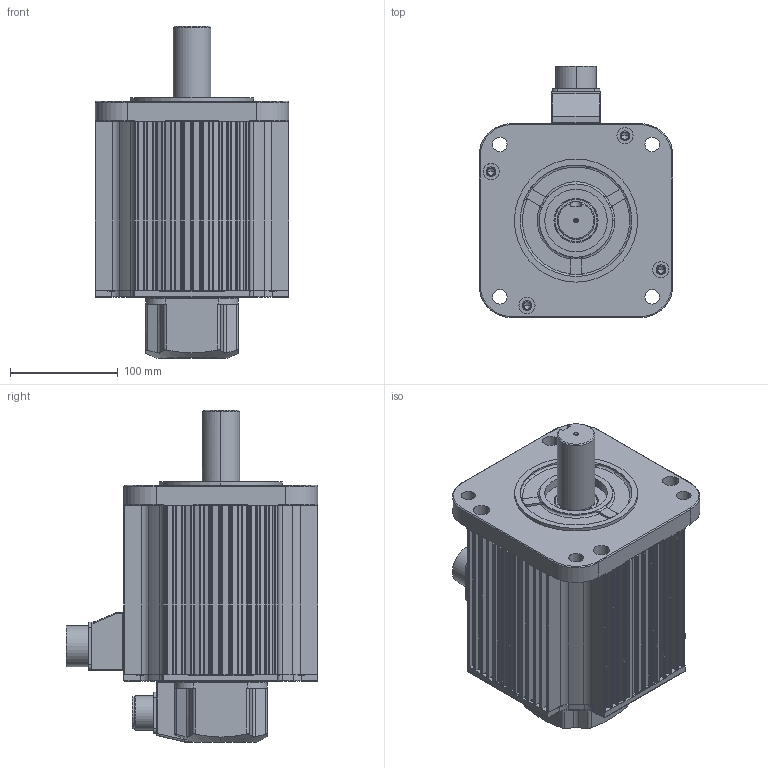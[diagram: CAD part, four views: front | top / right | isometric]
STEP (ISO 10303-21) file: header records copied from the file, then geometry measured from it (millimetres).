
FILE_DESCRIPTION (( 'STEP AP214' ), '1' );
FILE_NAME ('KAND-45B¡à1B2.STEP', '2026-09-12T03:11:57', ( '' ), ( '' ), 'SwSTEP 2.0', 'SolidWorks 2023', '' );
FILE_SCHEMA (( 'AUTOMOTIVE_DESIGN' ));
Length unit declared in the file: millimetre
Products named in the file (11): 10050908 CONNECTOR BOX_MS22 or MS24; KAND-45B□1B2; MS3102A 24_표준; □180 BRACKET_BR; 1005052200 ENCODER COVER; □180-156.5mm; 10050907 RUBBER SEAL_MS22 or MS24; MS3102A 20-29P; □180 FLANGE; Ø35-KEY10X50; 10050523 GASKET_돌출형
Assembly tree (10 placements, depth 2):
  KAND-45B□1B2
    □180-156.5mm
    □180 FLANGE
    □180 BRACKET_BR
    1005052200 ENCODER COVER
    10050523 GASKET_돌출형
    10050907 RUBBER SEAL_MS22 or MS24
    10050908 CONNECTOR BOX_MS22 or MS24
    MS3102A 20-29P
    MS3102A 24_표준
    Ø35-KEY10X50
Bounding box: 180 x 233.62 x 308.2 mm (x, y, z)
Volume: 1598902 mm3; surface area: 553750.5 mm2
Topology: 10 solids, 10 shells, 1748 faces, 4798 edges, 3124 vertices
Faces by surface type: cylinder 912, plane 605, torus 122, cone 72, bspline 35, sphere 2
Entity records: 59123 total; most frequent: CARTESIAN_POINT 13295, DIRECTION 9938, ORIENTED_EDGE 9524, EDGE_CURVE 4762, AXIS2_PLACEMENT_3D 3823, VERTEX_POINT 3124, VECTOR 2292, LINE 2292
